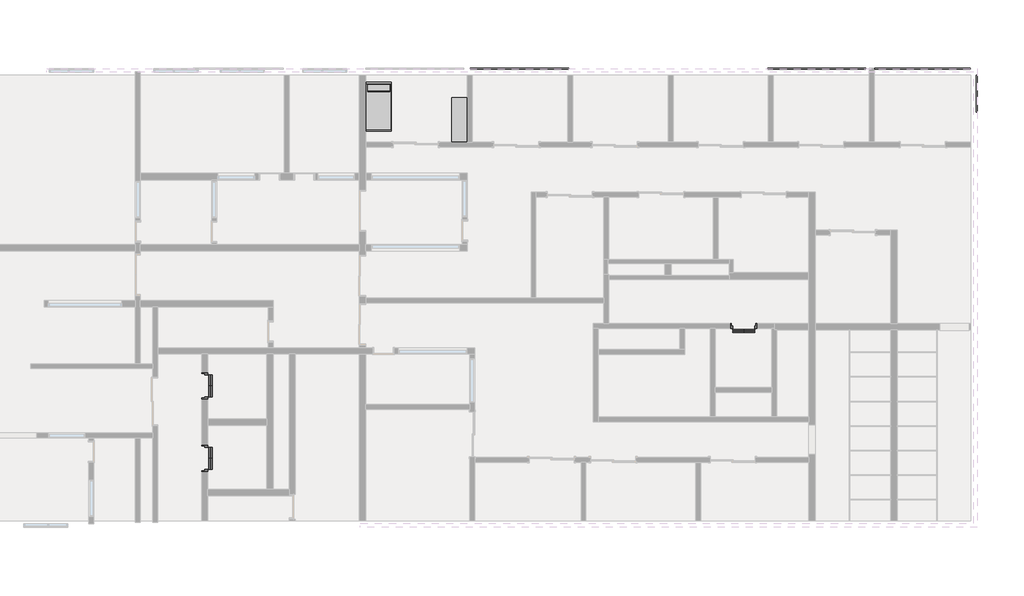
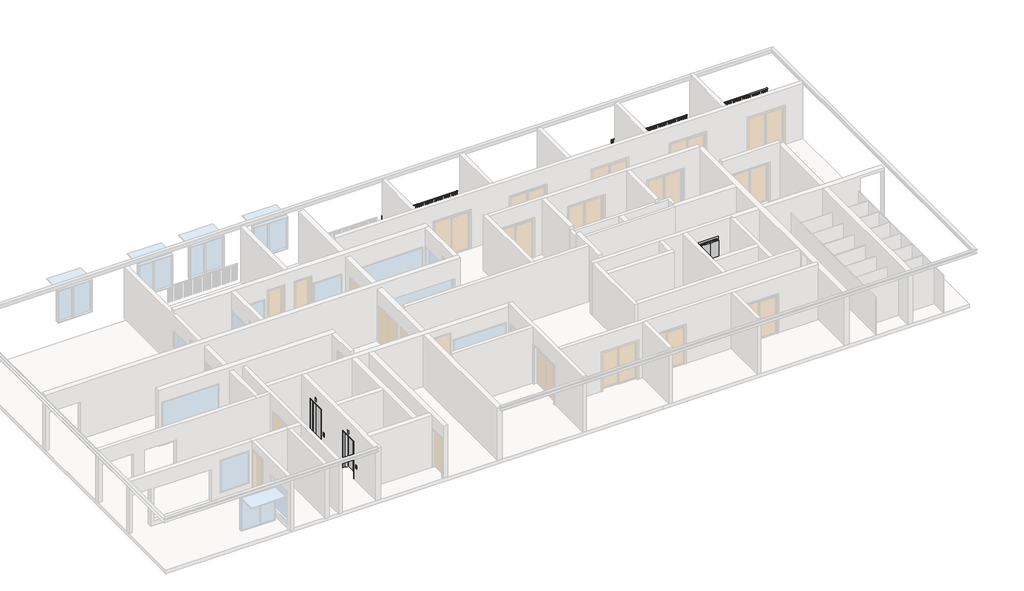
# One storey, part 5 of 5: 4 railings, 3 proxies, 2 furniture elements.
"""IFC4 building model written with IfcOpenShell, lengths in millimetres."""

from ifc_helpers import new_model, si_unit, point, frame, frame_2d, origin, place, context, project, spatial, polyline, circle_curve, trimmed, segment, composite_curve, outline, extrude, transform, mapped, element, save
from components import lift_single_entry_gen_type1_208d8e88, lift_single_entry_gen_type1_efb82ba8, bed_shaker_1040_x_1981mm_twin_31f1bf66, desk_fur_ff340581

model = new_model("IFC4")

# Units and contexts
model_context = context("Model", 3, world=origin())
ifc_project = project(units=[si_unit("LENGTHUNIT", "METRE", prefix="MILLI")], contexts=[model_context])

# Site, building, storey
site = spatial("IfcSite", under=ifc_project)
building = spatial("IfcBuilding", under=site)
storey = spatial("IfcBuildingStorey", under=building, Name="3階", Elevation=36100.0)

# Proxies
placement = place(None, origin())
lift_single_entry_gen_type1_shape = lift_single_entry_gen_type1_208d8e88(model_context)
element("IfcBuildingElementProxy", 1, Name="Lift_Single Entry_GEN : Type1", ObjectType="Lift_Single Entry_GEN : Type1", at=placement, inside=storey, context=model_context, shape_type="MappedRepresentation", body=[
    mapped(lift_single_entry_gen_type1_shape, transform((13819.6062665, 5591.0857154, 36100.0), x_axis=(0.0, 1.0, 0.0), y_axis=(-1.0, 0.0, 0.0), z_axis=(0.0, 0.0, 1.0))),
])
element("IfcBuildingElementProxy", 2, Name="Lift_Single Entry_GEN : Type1", ObjectType="Lift_Single Entry_GEN : Type1", at=placement, inside=storey, context=model_context, shape_type="MappedRepresentation", body=[
    mapped(lift_single_entry_gen_type1_shape, transform((13819.6062665, 2641.0857154, 36100.0), x_axis=(0.0, 1.0, 0.0), y_axis=(-1.0, 0.0, 0.0), z_axis=(0.0, 0.0, 1.0))),
])
lift_single_entry_gen_type1_2_shape = lift_single_entry_gen_type1_efb82ba8(model_context)
element("IfcBuildingElementProxy", 3, Name="Lift_Single Entry_GEN : Type1", ObjectType="Lift_Single Entry_GEN : Type1", at=placement, inside=storey, context=model_context, shape_type="MappedRepresentation", body=[
    mapped(lift_single_entry_gen_type1_2_shape, transform((35528.244232, 8230.005792, 36100.0), x_axis=(1.0, 0.0, 0.0), y_axis=(0.0, 1.0, 0.0), z_axis=(0.0, 0.0, 1.0))),
])

# Furniture
bed_shaker_1040_x_1981mm_twin_shape = bed_shaker_1040_x_1981mm_twin_31f1bf66(model_context)
element("IfcFurniture", 4, ObjectType="Bed-Shaker : 1040 x 1981mm - Twin", at=placement, inside=storey, context=model_context, shape_type="MappedRepresentation", body=[
    mapped(bed_shaker_1040_x_1981mm_twin_shape, transform((20904.3562665, 18140.0, 36100.0), x_axis=(1.0, 0.0, 0.0), y_axis=(0.0, 1.0, 0.0), z_axis=(0.0, 0.0, 1.0))),
])
desk_fur_shape = desk_fur_ff340581(model_context)
element("IfcFurniture", 5, ObjectType="Desk_FUR : 1800 x 600  mm 2", at=placement, inside=storey, context=model_context, shape_type="MappedRepresentation", body=[
    mapped(desk_fur_shape, transform((24569.4034243, 15853.7680774, 36100.0), x_axis=(0.0, 1.0, 0.0), y_axis=(-1.0, 0.0, 0.0), z_axis=(0.0, 0.0, 1.0))),
])

# Railings
element("IfcRailing", 6, ObjectType="900mm", at=placement, inside=storey, context=model_context, shape_type="SweptSolid", body=[
    extrude(outline(composite_curve([segment(trimmed(circle_curve(frame_2d((18700.0, 36980.0)), 20.0), [point((18720.0, 36980.0))], [point((18680.0, 36980.0))], False, "CARTESIAN"), True, "CONTINUOUS"), segment(trimmed(circle_curve(frame_2d((18700.0, 36980.0)), 20.0), [point((18680.0, 36980.0))], [point((18720.0, 36980.0))], False, "CARTESIAN"), True, "CONTINUOUS")], self_intersect=False)), frame((24623.4034243, 0.0, 0.0), z_axis=(1.0, 0.0, 0.0), x_axis=(0.0, 1.0, 0.0)), (0.0, 0.0, 1.0), 3988.7971578),
    extrude(outline(polyline([(24717.200582, 18695.0), (24707.200582, 18695.0), (24707.200582, 18705.0), (24717.200582, 18705.0), (24717.200582, 18695.0)])), frame((0.0, 0.0, 36100.0), z_axis=(0.0, 0.0, 1.0), x_axis=(1.0, 0.0, 0.0)), (0.0, 0.0, 1.0), 860.0),
    extrude(outline(polyline([(24817.200582, 18695.0), (24807.200582, 18695.0), (24807.200582, 18705.0), (24817.200582, 18705.0), (24817.200582, 18695.0)])), frame((0.0, 0.0, 36100.0), z_axis=(0.0, 0.0, 1.0), x_axis=(1.0, 0.0, 0.0)), (0.0, 0.0, 1.0), 860.0),
    extrude(outline(polyline([(24917.200582, 18695.0), (24907.200582, 18695.0), (24907.200582, 18705.0), (24917.200582, 18705.0), (24917.200582, 18695.0)])), frame((0.0, 0.0, 36100.0), z_axis=(0.0, 0.0, 1.0), x_axis=(1.0, 0.0, 0.0)), (0.0, 0.0, 1.0), 860.0),
    extrude(outline(polyline([(25017.200582, 18695.0), (25007.200582, 18695.0), (25007.200582, 18705.0), (25017.200582, 18705.0), (25017.200582, 18695.0)])), frame((0.0, 0.0, 36100.0), z_axis=(0.0, 0.0, 1.0), x_axis=(1.0, 0.0, 0.0)), (0.0, 0.0, 1.0), 860.0),
    extrude(outline(polyline([(25117.200582, 18695.0), (25107.200582, 18695.0), (25107.200582, 18705.0), (25117.200582, 18705.0), (25117.200582, 18695.0)])), frame((0.0, 0.0, 36100.0), z_axis=(0.0, 0.0, 1.0), x_axis=(1.0, 0.0, 0.0)), (0.0, 0.0, 1.0), 860.0),
    extrude(outline(polyline([(25217.200582, 18695.0), (25207.200582, 18695.0), (25207.200582, 18705.0), (25217.200582, 18705.0), (25217.200582, 18695.0)])), frame((0.0, 0.0, 36100.0), z_axis=(0.0, 0.0, 1.0), x_axis=(1.0, 0.0, 0.0)), (0.0, 0.0, 1.0), 860.0),
    extrude(outline(polyline([(25317.200582, 18695.0), (25307.200582, 18695.0), (25307.200582, 18705.0), (25317.200582, 18705.0), (25317.200582, 18695.0)])), frame((0.0, 0.0, 36100.0), z_axis=(0.0, 0.0, 1.0), x_axis=(1.0, 0.0, 0.0)), (0.0, 0.0, 1.0), 860.0),
    extrude(outline(polyline([(25417.200582, 18695.0), (25407.200582, 18695.0), (25407.200582, 18705.0), (25417.200582, 18705.0), (25417.200582, 18695.0)])), frame((0.0, 0.0, 36100.0), z_axis=(0.0, 0.0, 1.0), x_axis=(1.0, 0.0, 0.0)), (0.0, 0.0, 1.0), 860.0),
    extrude(outline(polyline([(25517.200582, 18695.0), (25507.200582, 18695.0), (25507.200582, 18705.0), (25517.200582, 18705.0), (25517.200582, 18695.0)])), frame((0.0, 0.0, 36100.0), z_axis=(0.0, 0.0, 1.0), x_axis=(1.0, 0.0, 0.0)), (0.0, 0.0, 1.0), 860.0),
    extrude(outline(polyline([(25617.200582, 18695.0), (25607.200582, 18695.0), (25607.200582, 18705.0), (25617.200582, 18705.0), (25617.200582, 18695.0)])), frame((0.0, 0.0, 36100.0), z_axis=(0.0, 0.0, 1.0), x_axis=(1.0, 0.0, 0.0)), (0.0, 0.0, 1.0), 860.0),
    extrude(outline(polyline([(25717.200582, 18695.0), (25707.200582, 18695.0), (25707.200582, 18705.0), (25717.200582, 18705.0), (25717.200582, 18695.0)])), frame((0.0, 0.0, 36100.0), z_axis=(0.0, 0.0, 1.0), x_axis=(1.0, 0.0, 0.0)), (0.0, 0.0, 1.0), 860.0),
    extrude(outline(polyline([(25817.200582, 18695.0), (25807.200582, 18695.0), (25807.200582, 18705.0), (25817.200582, 18705.0), (25817.200582, 18695.0)])), frame((0.0, 0.0, 36100.0), z_axis=(0.0, 0.0, 1.0), x_axis=(1.0, 0.0, 0.0)), (0.0, 0.0, 1.0), 860.0),
    extrude(outline(polyline([(25917.200582, 18695.0), (25907.200582, 18695.0), (25907.200582, 18705.0), (25917.200582, 18705.0), (25917.200582, 18695.0)])), frame((0.0, 0.0, 36100.0), z_axis=(0.0, 0.0, 1.0), x_axis=(1.0, 0.0, 0.0)), (0.0, 0.0, 1.0), 860.0),
    extrude(outline(polyline([(26017.200582, 18695.0), (26007.200582, 18695.0), (26007.200582, 18705.0), (26017.200582, 18705.0), (26017.200582, 18695.0)])), frame((0.0, 0.0, 36100.0), z_axis=(0.0, 0.0, 1.0), x_axis=(1.0, 0.0, 0.0)), (0.0, 0.0, 1.0), 860.0),
    extrude(outline(polyline([(26117.200582, 18695.0), (26107.200582, 18695.0), (26107.200582, 18705.0), (26117.200582, 18705.0), (26117.200582, 18695.0)])), frame((0.0, 0.0, 36100.0), z_axis=(0.0, 0.0, 1.0), x_axis=(1.0, 0.0, 0.0)), (0.0, 0.0, 1.0), 860.0),
    extrude(outline(polyline([(26217.200582, 18695.0), (26207.200582, 18695.0), (26207.200582, 18705.0), (26217.200582, 18705.0), (26217.200582, 18695.0)])), frame((0.0, 0.0, 36100.0), z_axis=(0.0, 0.0, 1.0), x_axis=(1.0, 0.0, 0.0)), (0.0, 0.0, 1.0), 860.0),
    extrude(outline(polyline([(26317.200582, 18695.0), (26307.200582, 18695.0), (26307.200582, 18705.0), (26317.200582, 18705.0), (26317.200582, 18695.0)])), frame((0.0, 0.0, 36100.0), z_axis=(0.0, 0.0, 1.0), x_axis=(1.0, 0.0, 0.0)), (0.0, 0.0, 1.0), 860.0),
    extrude(outline(polyline([(26417.200582, 18695.0), (26407.200582, 18695.0), (26407.200582, 18705.0), (26417.200582, 18705.0), (26417.200582, 18695.0)])), frame((0.0, 0.0, 36100.0), z_axis=(0.0, 0.0, 1.0), x_axis=(1.0, 0.0, 0.0)), (0.0, 0.0, 1.0), 860.0),
    extrude(outline(polyline([(26517.200582, 18695.0), (26507.200582, 18695.0), (26507.200582, 18705.0), (26517.200582, 18705.0), (26517.200582, 18695.0)])), frame((0.0, 0.0, 36100.0), z_axis=(0.0, 0.0, 1.0), x_axis=(1.0, 0.0, 0.0)), (0.0, 0.0, 1.0), 860.0),
    extrude(outline(polyline([(26617.200582, 18695.0), (26607.200582, 18695.0), (26607.200582, 18705.0), (26617.200582, 18705.0), (26617.200582, 18695.0)])), frame((0.0, 0.0, 36100.0), z_axis=(0.0, 0.0, 1.0), x_axis=(1.0, 0.0, 0.0)), (0.0, 0.0, 1.0), 860.0),
    extrude(outline(polyline([(26717.200582, 18695.0), (26707.200582, 18695.0), (26707.200582, 18705.0), (26717.200582, 18705.0), (26717.200582, 18695.0)])), frame((0.0, 0.0, 36100.0), z_axis=(0.0, 0.0, 1.0), x_axis=(1.0, 0.0, 0.0)), (0.0, 0.0, 1.0), 860.0),
    extrude(outline(polyline([(26817.200582, 18695.0), (26807.200582, 18695.0), (26807.200582, 18705.0), (26817.200582, 18705.0), (26817.200582, 18695.0)])), frame((0.0, 0.0, 36100.0), z_axis=(0.0, 0.0, 1.0), x_axis=(1.0, 0.0, 0.0)), (0.0, 0.0, 1.0), 860.0),
    extrude(outline(polyline([(26917.200582, 18695.0), (26907.200582, 18695.0), (26907.200582, 18705.0), (26917.200582, 18705.0), (26917.200582, 18695.0)])), frame((0.0, 0.0, 36100.0), z_axis=(0.0, 0.0, 1.0), x_axis=(1.0, 0.0, 0.0)), (0.0, 0.0, 1.0), 860.0),
    extrude(outline(polyline([(27017.200582, 18695.0), (27007.200582, 18695.0), (27007.200582, 18705.0), (27017.200582, 18705.0), (27017.200582, 18695.0)])), frame((0.0, 0.0, 36100.0), z_axis=(0.0, 0.0, 1.0), x_axis=(1.0, 0.0, 0.0)), (0.0, 0.0, 1.0), 860.0),
    extrude(outline(polyline([(27117.200582, 18695.0), (27107.200582, 18695.0), (27107.200582, 18705.0), (27117.200582, 18705.0), (27117.200582, 18695.0)])), frame((0.0, 0.0, 36100.0), z_axis=(0.0, 0.0, 1.0), x_axis=(1.0, 0.0, 0.0)), (0.0, 0.0, 1.0), 860.0),
    extrude(outline(polyline([(27217.200582, 18695.0), (27207.200582, 18695.0), (27207.200582, 18705.0), (27217.200582, 18705.0), (27217.200582, 18695.0)])), frame((0.0, 0.0, 36100.0), z_axis=(0.0, 0.0, 1.0), x_axis=(1.0, 0.0, 0.0)), (0.0, 0.0, 1.0), 860.0),
    extrude(outline(polyline([(27317.200582, 18695.0), (27307.200582, 18695.0), (27307.200582, 18705.0), (27317.200582, 18705.0), (27317.200582, 18695.0)])), frame((0.0, 0.0, 36100.0), z_axis=(0.0, 0.0, 1.0), x_axis=(1.0, 0.0, 0.0)), (0.0, 0.0, 1.0), 860.0),
    extrude(outline(polyline([(27417.200582, 18695.0), (27407.200582, 18695.0), (27407.200582, 18705.0), (27417.200582, 18705.0), (27417.200582, 18695.0)])), frame((0.0, 0.0, 36100.0), z_axis=(0.0, 0.0, 1.0), x_axis=(1.0, 0.0, 0.0)), (0.0, 0.0, 1.0), 860.0),
    extrude(outline(polyline([(27517.200582, 18695.0), (27507.200582, 18695.0), (27507.200582, 18705.0), (27517.200582, 18705.0), (27517.200582, 18695.0)])), frame((0.0, 0.0, 36100.0), z_axis=(0.0, 0.0, 1.0), x_axis=(1.0, 0.0, 0.0)), (0.0, 0.0, 1.0), 860.0),
    extrude(outline(polyline([(27617.200582, 18695.0), (27607.200582, 18695.0), (27607.200582, 18705.0), (27617.200582, 18705.0), (27617.200582, 18695.0)])), frame((0.0, 0.0, 36100.0), z_axis=(0.0, 0.0, 1.0), x_axis=(1.0, 0.0, 0.0)), (0.0, 0.0, 1.0), 860.0),
    extrude(outline(polyline([(27717.200582, 18695.0), (27707.200582, 18695.0), (27707.200582, 18705.0), (27717.200582, 18705.0), (27717.200582, 18695.0)])), frame((0.0, 0.0, 36100.0), z_axis=(0.0, 0.0, 1.0), x_axis=(1.0, 0.0, 0.0)), (0.0, 0.0, 1.0), 860.0),
    extrude(outline(polyline([(27817.200582, 18695.0), (27807.200582, 18695.0), (27807.200582, 18705.0), (27817.200582, 18705.0), (27817.200582, 18695.0)])), frame((0.0, 0.0, 36100.0), z_axis=(0.0, 0.0, 1.0), x_axis=(1.0, 0.0, 0.0)), (0.0, 0.0, 1.0), 860.0),
    extrude(outline(polyline([(27917.200582, 18695.0), (27907.200582, 18695.0), (27907.200582, 18705.0), (27917.200582, 18705.0), (27917.200582, 18695.0)])), frame((0.0, 0.0, 36100.0), z_axis=(0.0, 0.0, 1.0), x_axis=(1.0, 0.0, 0.0)), (0.0, 0.0, 1.0), 860.0),
    extrude(outline(polyline([(28017.200582, 18695.0), (28007.200582, 18695.0), (28007.200582, 18705.0), (28017.200582, 18705.0), (28017.200582, 18695.0)])), frame((0.0, 0.0, 36100.0), z_axis=(0.0, 0.0, 1.0), x_axis=(1.0, 0.0, 0.0)), (0.0, 0.0, 1.0), 860.0),
    extrude(outline(polyline([(28117.200582, 18695.0), (28107.200582, 18695.0), (28107.200582, 18705.0), (28117.200582, 18705.0), (28117.200582, 18695.0)])), frame((0.0, 0.0, 36100.0), z_axis=(0.0, 0.0, 1.0), x_axis=(1.0, 0.0, 0.0)), (0.0, 0.0, 1.0), 860.0),
    extrude(outline(polyline([(28217.200582, 18695.0), (28207.200582, 18695.0), (28207.200582, 18705.0), (28217.200582, 18705.0), (28217.200582, 18695.0)])), frame((0.0, 0.0, 36100.0), z_axis=(0.0, 0.0, 1.0), x_axis=(1.0, 0.0, 0.0)), (0.0, 0.0, 1.0), 860.0),
    extrude(outline(polyline([(28317.200582, 18695.0), (28307.200582, 18695.0), (28307.200582, 18705.0), (28317.200582, 18705.0), (28317.200582, 18695.0)])), frame((0.0, 0.0, 36100.0), z_axis=(0.0, 0.0, 1.0), x_axis=(1.0, 0.0, 0.0)), (0.0, 0.0, 1.0), 860.0),
    extrude(outline(polyline([(28417.200582, 18695.0), (28407.200582, 18695.0), (28407.200582, 18705.0), (28417.200582, 18705.0), (28417.200582, 18695.0)])), frame((0.0, 0.0, 36100.0), z_axis=(0.0, 0.0, 1.0), x_axis=(1.0, 0.0, 0.0)), (0.0, 0.0, 1.0), 860.0),
    extrude(outline(polyline([(28517.200582, 18695.0), (28507.200582, 18695.0), (28507.200582, 18705.0), (28517.200582, 18705.0), (28517.200582, 18695.0)])), frame((0.0, 0.0, 36100.0), z_axis=(0.0, 0.0, 1.0), x_axis=(1.0, 0.0, 0.0)), (0.0, 0.0, 1.0), 860.0),
    extrude(outline(polyline([(24638.4034243, 18695.0), (24628.4034243, 18695.0), (24628.4034243, 18705.0), (24638.4034243, 18705.0), (24638.4034243, 18695.0)])), frame((0.0, 0.0, 36100.0), z_axis=(0.0, 0.0, 1.0), x_axis=(1.0, 0.0, 0.0)), (0.0, 0.0, 1.0), 860.0),
    extrude(outline(polyline([(28607.200582, 18695.0), (28597.200582, 18695.0), (28597.200582, 18705.0), (28607.200582, 18705.0), (28607.200582, 18695.0)])), frame((0.0, 0.0, 36100.0), z_axis=(0.0, 0.0, 1.0), x_axis=(1.0, 0.0, 0.0)), (0.0, 0.0, 1.0), 860.0),
])
element("IfcRailing", 7, ObjectType="900mm", at=placement, inside=storey, context=model_context, shape_type="SweptSolid", body=[
    extrude(outline(composite_curve([segment(trimmed(circle_curve(frame_2d((18700.0, 36980.0)), 20.0), [point((18680.0, 36980.0))], [point((18720.0, 36980.0))], False, "CARTESIAN"), True, "CONTINUOUS"), segment(trimmed(circle_curve(frame_2d((18700.0, 36980.0)), 20.0), [point((18720.0, 36980.0))], [point((18680.0, 36980.0))], False, "CARTESIAN"), True, "CONTINUOUS")], self_intersect=False)), frame((36717.5608733, 0.0, 0.0), z_axis=(1.0, 0.0, 0.0), x_axis=(0.0, 1.0, 0.0)), (0.0, 0.0, 1.0), 3988.7971578),
    extrude(outline(polyline([(40612.5608733, 18695.0), (40612.5608733, 18705.0), (40622.5608733, 18705.0), (40622.5608733, 18695.0), (40612.5608733, 18695.0)])), frame((0.0, 0.0, 36100.0), z_axis=(0.0, 0.0, 1.0), x_axis=(1.0, 0.0, 0.0)), (0.0, 0.0, 1.0), 860.0),
    extrude(outline(polyline([(40512.5608733, 18695.0), (40512.5608733, 18705.0), (40522.5608733, 18705.0), (40522.5608733, 18695.0), (40512.5608733, 18695.0)])), frame((0.0, 0.0, 36100.0), z_axis=(0.0, 0.0, 1.0), x_axis=(1.0, 0.0, 0.0)), (0.0, 0.0, 1.0), 860.0),
    extrude(outline(polyline([(40412.5608733, 18695.0), (40412.5608733, 18705.0), (40422.5608733, 18705.0), (40422.5608733, 18695.0), (40412.5608733, 18695.0)])), frame((0.0, 0.0, 36100.0), z_axis=(0.0, 0.0, 1.0), x_axis=(1.0, 0.0, 0.0)), (0.0, 0.0, 1.0), 860.0),
    extrude(outline(polyline([(40312.5608733, 18695.0), (40312.5608733, 18705.0), (40322.5608733, 18705.0), (40322.5608733, 18695.0), (40312.5608733, 18695.0)])), frame((0.0, 0.0, 36100.0), z_axis=(0.0, 0.0, 1.0), x_axis=(1.0, 0.0, 0.0)), (0.0, 0.0, 1.0), 860.0),
    extrude(outline(polyline([(40212.5608733, 18695.0), (40212.5608733, 18705.0), (40222.5608733, 18705.0), (40222.5608733, 18695.0), (40212.5608733, 18695.0)])), frame((0.0, 0.0, 36100.0), z_axis=(0.0, 0.0, 1.0), x_axis=(1.0, 0.0, 0.0)), (0.0, 0.0, 1.0), 860.0),
    extrude(outline(polyline([(40112.5608733, 18695.0), (40112.5608733, 18705.0), (40122.5608733, 18705.0), (40122.5608733, 18695.0), (40112.5608733, 18695.0)])), frame((0.0, 0.0, 36100.0), z_axis=(0.0, 0.0, 1.0), x_axis=(1.0, 0.0, 0.0)), (0.0, 0.0, 1.0), 860.0),
    extrude(outline(polyline([(40012.5608733, 18695.0), (40012.5608733, 18705.0), (40022.5608733, 18705.0), (40022.5608733, 18695.0), (40012.5608733, 18695.0)])), frame((0.0, 0.0, 36100.0), z_axis=(0.0, 0.0, 1.0), x_axis=(1.0, 0.0, 0.0)), (0.0, 0.0, 1.0), 860.0),
    extrude(outline(polyline([(39912.5608733, 18695.0), (39912.5608733, 18705.0), (39922.5608733, 18705.0), (39922.5608733, 18695.0), (39912.5608733, 18695.0)])), frame((0.0, 0.0, 36100.0), z_axis=(0.0, 0.0, 1.0), x_axis=(1.0, 0.0, 0.0)), (0.0, 0.0, 1.0), 860.0),
    extrude(outline(polyline([(39812.5608733, 18695.0), (39812.5608733, 18705.0), (39822.5608733, 18705.0), (39822.5608733, 18695.0), (39812.5608733, 18695.0)])), frame((0.0, 0.0, 36100.0), z_axis=(0.0, 0.0, 1.0), x_axis=(1.0, 0.0, 0.0)), (0.0, 0.0, 1.0), 860.0),
    extrude(outline(polyline([(39712.5608733, 18695.0), (39712.5608733, 18705.0), (39722.5608733, 18705.0), (39722.5608733, 18695.0), (39712.5608733, 18695.0)])), frame((0.0, 0.0, 36100.0), z_axis=(0.0, 0.0, 1.0), x_axis=(1.0, 0.0, 0.0)), (0.0, 0.0, 1.0), 860.0),
    extrude(outline(polyline([(39612.5608733, 18695.0), (39612.5608733, 18705.0), (39622.5608733, 18705.0), (39622.5608733, 18695.0), (39612.5608733, 18695.0)])), frame((0.0, 0.0, 36100.0), z_axis=(0.0, 0.0, 1.0), x_axis=(1.0, 0.0, 0.0)), (0.0, 0.0, 1.0), 860.0),
    extrude(outline(polyline([(39512.5608733, 18695.0), (39512.5608733, 18705.0), (39522.5608733, 18705.0), (39522.5608733, 18695.0), (39512.5608733, 18695.0)])), frame((0.0, 0.0, 36100.0), z_axis=(0.0, 0.0, 1.0), x_axis=(1.0, 0.0, 0.0)), (0.0, 0.0, 1.0), 860.0),
    extrude(outline(polyline([(39412.5608733, 18695.0), (39412.5608733, 18705.0), (39422.5608733, 18705.0), (39422.5608733, 18695.0), (39412.5608733, 18695.0)])), frame((0.0, 0.0, 36100.0), z_axis=(0.0, 0.0, 1.0), x_axis=(1.0, 0.0, 0.0)), (0.0, 0.0, 1.0), 860.0),
    extrude(outline(polyline([(39312.5608733, 18695.0), (39312.5608733, 18705.0), (39322.5608733, 18705.0), (39322.5608733, 18695.0), (39312.5608733, 18695.0)])), frame((0.0, 0.0, 36100.0), z_axis=(0.0, 0.0, 1.0), x_axis=(1.0, 0.0, 0.0)), (0.0, 0.0, 1.0), 860.0),
    extrude(outline(polyline([(39212.5608733, 18695.0), (39212.5608733, 18705.0), (39222.5608733, 18705.0), (39222.5608733, 18695.0), (39212.5608733, 18695.0)])), frame((0.0, 0.0, 36100.0), z_axis=(0.0, 0.0, 1.0), x_axis=(1.0, 0.0, 0.0)), (0.0, 0.0, 1.0), 860.0),
    extrude(outline(polyline([(39112.5608733, 18695.0), (39112.5608733, 18705.0), (39122.5608733, 18705.0), (39122.5608733, 18695.0), (39112.5608733, 18695.0)])), frame((0.0, 0.0, 36100.0), z_axis=(0.0, 0.0, 1.0), x_axis=(1.0, 0.0, 0.0)), (0.0, 0.0, 1.0), 860.0),
    extrude(outline(polyline([(39012.5608733, 18695.0), (39012.5608733, 18705.0), (39022.5608733, 18705.0), (39022.5608733, 18695.0), (39012.5608733, 18695.0)])), frame((0.0, 0.0, 36100.0), z_axis=(0.0, 0.0, 1.0), x_axis=(1.0, 0.0, 0.0)), (0.0, 0.0, 1.0), 860.0),
    extrude(outline(polyline([(38912.5608733, 18695.0), (38912.5608733, 18705.0), (38922.5608733, 18705.0), (38922.5608733, 18695.0), (38912.5608733, 18695.0)])), frame((0.0, 0.0, 36100.0), z_axis=(0.0, 0.0, 1.0), x_axis=(1.0, 0.0, 0.0)), (0.0, 0.0, 1.0), 860.0),
    extrude(outline(polyline([(38812.5608733, 18695.0), (38812.5608733, 18705.0), (38822.5608733, 18705.0), (38822.5608733, 18695.0), (38812.5608733, 18695.0)])), frame((0.0, 0.0, 36100.0), z_axis=(0.0, 0.0, 1.0), x_axis=(1.0, 0.0, 0.0)), (0.0, 0.0, 1.0), 860.0),
    extrude(outline(polyline([(38712.5608733, 18695.0), (38712.5608733, 18705.0), (38722.5608733, 18705.0), (38722.5608733, 18695.0), (38712.5608733, 18695.0)])), frame((0.0, 0.0, 36100.0), z_axis=(0.0, 0.0, 1.0), x_axis=(1.0, 0.0, 0.0)), (0.0, 0.0, 1.0), 860.0),
    extrude(outline(polyline([(38612.5608733, 18695.0), (38612.5608733, 18705.0), (38622.5608733, 18705.0), (38622.5608733, 18695.0), (38612.5608733, 18695.0)])), frame((0.0, 0.0, 36100.0), z_axis=(0.0, 0.0, 1.0), x_axis=(1.0, 0.0, 0.0)), (0.0, 0.0, 1.0), 860.0),
    extrude(outline(polyline([(38512.5608733, 18695.0), (38512.5608733, 18705.0), (38522.5608733, 18705.0), (38522.5608733, 18695.0), (38512.5608733, 18695.0)])), frame((0.0, 0.0, 36100.0), z_axis=(0.0, 0.0, 1.0), x_axis=(1.0, 0.0, 0.0)), (0.0, 0.0, 1.0), 860.0),
    extrude(outline(polyline([(38412.5608733, 18695.0), (38412.5608733, 18705.0), (38422.5608733, 18705.0), (38422.5608733, 18695.0), (38412.5608733, 18695.0)])), frame((0.0, 0.0, 36100.0), z_axis=(0.0, 0.0, 1.0), x_axis=(1.0, 0.0, 0.0)), (0.0, 0.0, 1.0), 860.0),
    extrude(outline(polyline([(38312.5608733, 18695.0), (38312.5608733, 18705.0), (38322.5608733, 18705.0), (38322.5608733, 18695.0), (38312.5608733, 18695.0)])), frame((0.0, 0.0, 36100.0), z_axis=(0.0, 0.0, 1.0), x_axis=(1.0, 0.0, 0.0)), (0.0, 0.0, 1.0), 860.0),
    extrude(outline(polyline([(38212.5608733, 18695.0), (38212.5608733, 18705.0), (38222.5608733, 18705.0), (38222.5608733, 18695.0), (38212.5608733, 18695.0)])), frame((0.0, 0.0, 36100.0), z_axis=(0.0, 0.0, 1.0), x_axis=(1.0, 0.0, 0.0)), (0.0, 0.0, 1.0), 860.0),
    extrude(outline(polyline([(38112.5608733, 18695.0), (38112.5608733, 18705.0), (38122.5608733, 18705.0), (38122.5608733, 18695.0), (38112.5608733, 18695.0)])), frame((0.0, 0.0, 36100.0), z_axis=(0.0, 0.0, 1.0), x_axis=(1.0, 0.0, 0.0)), (0.0, 0.0, 1.0), 860.0),
    extrude(outline(polyline([(38012.5608733, 18695.0), (38012.5608733, 18705.0), (38022.5608733, 18705.0), (38022.5608733, 18695.0), (38012.5608733, 18695.0)])), frame((0.0, 0.0, 36100.0), z_axis=(0.0, 0.0, 1.0), x_axis=(1.0, 0.0, 0.0)), (0.0, 0.0, 1.0), 860.0),
    extrude(outline(polyline([(37912.5608733, 18695.0), (37912.5608733, 18705.0), (37922.5608733, 18705.0), (37922.5608733, 18695.0), (37912.5608733, 18695.0)])), frame((0.0, 0.0, 36100.0), z_axis=(0.0, 0.0, 1.0), x_axis=(1.0, 0.0, 0.0)), (0.0, 0.0, 1.0), 860.0),
    extrude(outline(polyline([(37812.5608733, 18695.0), (37812.5608733, 18705.0), (37822.5608733, 18705.0), (37822.5608733, 18695.0), (37812.5608733, 18695.0)])), frame((0.0, 0.0, 36100.0), z_axis=(0.0, 0.0, 1.0), x_axis=(1.0, 0.0, 0.0)), (0.0, 0.0, 1.0), 860.0),
    extrude(outline(polyline([(37712.5608733, 18695.0), (37712.5608733, 18705.0), (37722.5608733, 18705.0), (37722.5608733, 18695.0), (37712.5608733, 18695.0)])), frame((0.0, 0.0, 36100.0), z_axis=(0.0, 0.0, 1.0), x_axis=(1.0, 0.0, 0.0)), (0.0, 0.0, 1.0), 860.0),
    extrude(outline(polyline([(37612.5608733, 18695.0), (37612.5608733, 18705.0), (37622.5608733, 18705.0), (37622.5608733, 18695.0), (37612.5608733, 18695.0)])), frame((0.0, 0.0, 36100.0), z_axis=(0.0, 0.0, 1.0), x_axis=(1.0, 0.0, 0.0)), (0.0, 0.0, 1.0), 860.0),
    extrude(outline(polyline([(37512.5608733, 18695.0), (37512.5608733, 18705.0), (37522.5608733, 18705.0), (37522.5608733, 18695.0), (37512.5608733, 18695.0)])), frame((0.0, 0.0, 36100.0), z_axis=(0.0, 0.0, 1.0), x_axis=(1.0, 0.0, 0.0)), (0.0, 0.0, 1.0), 860.0),
    extrude(outline(polyline([(37412.5608733, 18695.0), (37412.5608733, 18705.0), (37422.5608733, 18705.0), (37422.5608733, 18695.0), (37412.5608733, 18695.0)])), frame((0.0, 0.0, 36100.0), z_axis=(0.0, 0.0, 1.0), x_axis=(1.0, 0.0, 0.0)), (0.0, 0.0, 1.0), 860.0),
    extrude(outline(polyline([(37312.5608733, 18695.0), (37312.5608733, 18705.0), (37322.5608733, 18705.0), (37322.5608733, 18695.0), (37312.5608733, 18695.0)])), frame((0.0, 0.0, 36100.0), z_axis=(0.0, 0.0, 1.0), x_axis=(1.0, 0.0, 0.0)), (0.0, 0.0, 1.0), 860.0),
    extrude(outline(polyline([(37212.5608733, 18695.0), (37212.5608733, 18705.0), (37222.5608733, 18705.0), (37222.5608733, 18695.0), (37212.5608733, 18695.0)])), frame((0.0, 0.0, 36100.0), z_axis=(0.0, 0.0, 1.0), x_axis=(1.0, 0.0, 0.0)), (0.0, 0.0, 1.0), 860.0),
    extrude(outline(polyline([(37112.5608733, 18695.0), (37112.5608733, 18705.0), (37122.5608733, 18705.0), (37122.5608733, 18695.0), (37112.5608733, 18695.0)])), frame((0.0, 0.0, 36100.0), z_axis=(0.0, 0.0, 1.0), x_axis=(1.0, 0.0, 0.0)), (0.0, 0.0, 1.0), 860.0),
    extrude(outline(polyline([(37012.5608733, 18695.0), (37012.5608733, 18705.0), (37022.5608733, 18705.0), (37022.5608733, 18695.0), (37012.5608733, 18695.0)])), frame((0.0, 0.0, 36100.0), z_axis=(0.0, 0.0, 1.0), x_axis=(1.0, 0.0, 0.0)), (0.0, 0.0, 1.0), 860.0),
    extrude(outline(polyline([(36912.5608733, 18695.0), (36912.5608733, 18705.0), (36922.5608733, 18705.0), (36922.5608733, 18695.0), (36912.5608733, 18695.0)])), frame((0.0, 0.0, 36100.0), z_axis=(0.0, 0.0, 1.0), x_axis=(1.0, 0.0, 0.0)), (0.0, 0.0, 1.0), 860.0),
    extrude(outline(polyline([(36812.5608733, 18695.0), (36812.5608733, 18705.0), (36822.5608733, 18705.0), (36822.5608733, 18695.0), (36812.5608733, 18695.0)])), frame((0.0, 0.0, 36100.0), z_axis=(0.0, 0.0, 1.0), x_axis=(1.0, 0.0, 0.0)), (0.0, 0.0, 1.0), 860.0),
    extrude(outline(polyline([(40691.358031, 18695.0), (40691.358031, 18705.0), (40701.358031, 18705.0), (40701.358031, 18695.0), (40691.358031, 18695.0)])), frame((0.0, 0.0, 36100.0), z_axis=(0.0, 0.0, 1.0), x_axis=(1.0, 0.0, 0.0)), (0.0, 0.0, 1.0), 860.0),
    extrude(outline(polyline([(36722.5608733, 18695.0), (36722.5608733, 18705.0), (36732.5608733, 18705.0), (36732.5608733, 18695.0), (36722.5608733, 18695.0)])), frame((0.0, 0.0, 36100.0), z_axis=(0.0, 0.0, 1.0), x_axis=(1.0, 0.0, 0.0)), (0.0, 0.0, 1.0), 860.0),
])
element("IfcRailing", 8, ObjectType="900mm", at=placement, inside=storey, context=model_context, shape_type="SweptSolid", body=[
    extrude(outline(composite_curve([segment(trimmed(circle_curve(frame_2d((18700.0, 36980.0)), 20.0), [point((18720.0, 36980.0))], [point((18680.0, 36980.0))], False, "CARTESIAN"), True, "CONTINUOUS"), segment(trimmed(circle_curve(frame_2d((18700.0, 36980.0)), 20.0), [point((18680.0, 36980.0))], [point((18720.0, 36980.0))], False, "CARTESIAN"), True, "CONTINUOUS")], self_intersect=False)), frame((40953.358031, 0.0, 0.0), z_axis=(1.0, 0.0, 0.0), x_axis=(0.0, 1.0, 0.0)), (0.0, 0.0, 1.0), 3988.7971578),
    extrude(outline(polyline([(41047.1551888, 18695.0), (41037.1551888, 18695.0), (41037.1551888, 18705.0), (41047.1551888, 18705.0), (41047.1551888, 18695.0)])), frame((0.0, 0.0, 36100.0), z_axis=(0.0, 0.0, 1.0), x_axis=(1.0, 0.0, 0.0)), (0.0, 0.0, 1.0), 860.0),
    extrude(outline(polyline([(41147.1551888, 18695.0), (41137.1551888, 18695.0), (41137.1551888, 18705.0), (41147.1551888, 18705.0), (41147.1551888, 18695.0)])), frame((0.0, 0.0, 36100.0), z_axis=(0.0, 0.0, 1.0), x_axis=(1.0, 0.0, 0.0)), (0.0, 0.0, 1.0), 860.0),
    extrude(outline(polyline([(41247.1551888, 18695.0), (41237.1551888, 18695.0), (41237.1551888, 18705.0), (41247.1551888, 18705.0), (41247.1551888, 18695.0)])), frame((0.0, 0.0, 36100.0), z_axis=(0.0, 0.0, 1.0), x_axis=(1.0, 0.0, 0.0)), (0.0, 0.0, 1.0), 860.0),
    extrude(outline(polyline([(41347.1551888, 18695.0), (41337.1551888, 18695.0), (41337.1551888, 18705.0), (41347.1551888, 18705.0), (41347.1551888, 18695.0)])), frame((0.0, 0.0, 36100.0), z_axis=(0.0, 0.0, 1.0), x_axis=(1.0, 0.0, 0.0)), (0.0, 0.0, 1.0), 860.0),
    extrude(outline(polyline([(41447.1551888, 18695.0), (41437.1551888, 18695.0), (41437.1551888, 18705.0), (41447.1551888, 18705.0), (41447.1551888, 18695.0)])), frame((0.0, 0.0, 36100.0), z_axis=(0.0, 0.0, 1.0), x_axis=(1.0, 0.0, 0.0)), (0.0, 0.0, 1.0), 860.0),
    extrude(outline(polyline([(41547.1551888, 18695.0), (41537.1551888, 18695.0), (41537.1551888, 18705.0), (41547.1551888, 18705.0), (41547.1551888, 18695.0)])), frame((0.0, 0.0, 36100.0), z_axis=(0.0, 0.0, 1.0), x_axis=(1.0, 0.0, 0.0)), (0.0, 0.0, 1.0), 860.0),
    extrude(outline(polyline([(41647.1551888, 18695.0), (41637.1551888, 18695.0), (41637.1551888, 18705.0), (41647.1551888, 18705.0), (41647.1551888, 18695.0)])), frame((0.0, 0.0, 36100.0), z_axis=(0.0, 0.0, 1.0), x_axis=(1.0, 0.0, 0.0)), (0.0, 0.0, 1.0), 860.0),
    extrude(outline(polyline([(41747.1551888, 18695.0), (41737.1551888, 18695.0), (41737.1551888, 18705.0), (41747.1551888, 18705.0), (41747.1551888, 18695.0)])), frame((0.0, 0.0, 36100.0), z_axis=(0.0, 0.0, 1.0), x_axis=(1.0, 0.0, 0.0)), (0.0, 0.0, 1.0), 860.0),
    extrude(outline(polyline([(41847.1551888, 18695.0), (41837.1551888, 18695.0), (41837.1551888, 18705.0), (41847.1551888, 18705.0), (41847.1551888, 18695.0)])), frame((0.0, 0.0, 36100.0), z_axis=(0.0, 0.0, 1.0), x_axis=(1.0, 0.0, 0.0)), (0.0, 0.0, 1.0), 860.0),
    extrude(outline(polyline([(41947.1551888, 18695.0), (41937.1551888, 18695.0), (41937.1551888, 18705.0), (41947.1551888, 18705.0), (41947.1551888, 18695.0)])), frame((0.0, 0.0, 36100.0), z_axis=(0.0, 0.0, 1.0), x_axis=(1.0, 0.0, 0.0)), (0.0, 0.0, 1.0), 860.0),
    extrude(outline(polyline([(42047.1551888, 18695.0), (42037.1551888, 18695.0), (42037.1551888, 18705.0), (42047.1551888, 18705.0), (42047.1551888, 18695.0)])), frame((0.0, 0.0, 36100.0), z_axis=(0.0, 0.0, 1.0), x_axis=(1.0, 0.0, 0.0)), (0.0, 0.0, 1.0), 860.0),
    extrude(outline(polyline([(42147.1551888, 18695.0), (42137.1551888, 18695.0), (42137.1551888, 18705.0), (42147.1551888, 18705.0), (42147.1551888, 18695.0)])), frame((0.0, 0.0, 36100.0), z_axis=(0.0, 0.0, 1.0), x_axis=(1.0, 0.0, 0.0)), (0.0, 0.0, 1.0), 860.0),
    extrude(outline(polyline([(42247.1551888, 18695.0), (42237.1551888, 18695.0), (42237.1551888, 18705.0), (42247.1551888, 18705.0), (42247.1551888, 18695.0)])), frame((0.0, 0.0, 36100.0), z_axis=(0.0, 0.0, 1.0), x_axis=(1.0, 0.0, 0.0)), (0.0, 0.0, 1.0), 860.0),
    extrude(outline(polyline([(42347.1551888, 18695.0), (42337.1551888, 18695.0), (42337.1551888, 18705.0), (42347.1551888, 18705.0), (42347.1551888, 18695.0)])), frame((0.0, 0.0, 36100.0), z_axis=(0.0, 0.0, 1.0), x_axis=(1.0, 0.0, 0.0)), (0.0, 0.0, 1.0), 860.0),
    extrude(outline(polyline([(42447.1551888, 18695.0), (42437.1551888, 18695.0), (42437.1551888, 18705.0), (42447.1551888, 18705.0), (42447.1551888, 18695.0)])), frame((0.0, 0.0, 36100.0), z_axis=(0.0, 0.0, 1.0), x_axis=(1.0, 0.0, 0.0)), (0.0, 0.0, 1.0), 860.0),
    extrude(outline(polyline([(42547.1551888, 18695.0), (42537.1551888, 18695.0), (42537.1551888, 18705.0), (42547.1551888, 18705.0), (42547.1551888, 18695.0)])), frame((0.0, 0.0, 36100.0), z_axis=(0.0, 0.0, 1.0), x_axis=(1.0, 0.0, 0.0)), (0.0, 0.0, 1.0), 860.0),
    extrude(outline(polyline([(42647.1551888, 18695.0), (42637.1551888, 18695.0), (42637.1551888, 18705.0), (42647.1551888, 18705.0), (42647.1551888, 18695.0)])), frame((0.0, 0.0, 36100.0), z_axis=(0.0, 0.0, 1.0), x_axis=(1.0, 0.0, 0.0)), (0.0, 0.0, 1.0), 860.0),
    extrude(outline(polyline([(42747.1551888, 18695.0), (42737.1551888, 18695.0), (42737.1551888, 18705.0), (42747.1551888, 18705.0), (42747.1551888, 18695.0)])), frame((0.0, 0.0, 36100.0), z_axis=(0.0, 0.0, 1.0), x_axis=(1.0, 0.0, 0.0)), (0.0, 0.0, 1.0), 860.0),
    extrude(outline(polyline([(42847.1551888, 18695.0), (42837.1551888, 18695.0), (42837.1551888, 18705.0), (42847.1551888, 18705.0), (42847.1551888, 18695.0)])), frame((0.0, 0.0, 36100.0), z_axis=(0.0, 0.0, 1.0), x_axis=(1.0, 0.0, 0.0)), (0.0, 0.0, 1.0), 860.0),
    extrude(outline(polyline([(42947.1551888, 18695.0), (42937.1551888, 18695.0), (42937.1551888, 18705.0), (42947.1551888, 18705.0), (42947.1551888, 18695.0)])), frame((0.0, 0.0, 36100.0), z_axis=(0.0, 0.0, 1.0), x_axis=(1.0, 0.0, 0.0)), (0.0, 0.0, 1.0), 860.0),
    extrude(outline(polyline([(43047.1551888, 18695.0), (43037.1551888, 18695.0), (43037.1551888, 18705.0), (43047.1551888, 18705.0), (43047.1551888, 18695.0)])), frame((0.0, 0.0, 36100.0), z_axis=(0.0, 0.0, 1.0), x_axis=(1.0, 0.0, 0.0)), (0.0, 0.0, 1.0), 860.0),
    extrude(outline(polyline([(43147.1551888, 18695.0), (43137.1551888, 18695.0), (43137.1551888, 18705.0), (43147.1551888, 18705.0), (43147.1551888, 18695.0)])), frame((0.0, 0.0, 36100.0), z_axis=(0.0, 0.0, 1.0), x_axis=(1.0, 0.0, 0.0)), (0.0, 0.0, 1.0), 860.0),
    extrude(outline(polyline([(43247.1551888, 18695.0), (43237.1551888, 18695.0), (43237.1551888, 18705.0), (43247.1551888, 18705.0), (43247.1551888, 18695.0)])), frame((0.0, 0.0, 36100.0), z_axis=(0.0, 0.0, 1.0), x_axis=(1.0, 0.0, 0.0)), (0.0, 0.0, 1.0), 860.0),
    extrude(outline(polyline([(43347.1551888, 18695.0), (43337.1551888, 18695.0), (43337.1551888, 18705.0), (43347.1551888, 18705.0), (43347.1551888, 18695.0)])), frame((0.0, 0.0, 36100.0), z_axis=(0.0, 0.0, 1.0), x_axis=(1.0, 0.0, 0.0)), (0.0, 0.0, 1.0), 860.0),
    extrude(outline(polyline([(43447.1551888, 18695.0), (43437.1551888, 18695.0), (43437.1551888, 18705.0), (43447.1551888, 18705.0), (43447.1551888, 18695.0)])), frame((0.0, 0.0, 36100.0), z_axis=(0.0, 0.0, 1.0), x_axis=(1.0, 0.0, 0.0)), (0.0, 0.0, 1.0), 860.0),
    extrude(outline(polyline([(43547.1551888, 18695.0), (43537.1551888, 18695.0), (43537.1551888, 18705.0), (43547.1551888, 18705.0), (43547.1551888, 18695.0)])), frame((0.0, 0.0, 36100.0), z_axis=(0.0, 0.0, 1.0), x_axis=(1.0, 0.0, 0.0)), (0.0, 0.0, 1.0), 860.0),
    extrude(outline(polyline([(43647.1551888, 18695.0), (43637.1551888, 18695.0), (43637.1551888, 18705.0), (43647.1551888, 18705.0), (43647.1551888, 18695.0)])), frame((0.0, 0.0, 36100.0), z_axis=(0.0, 0.0, 1.0), x_axis=(1.0, 0.0, 0.0)), (0.0, 0.0, 1.0), 860.0),
    extrude(outline(polyline([(43747.1551888, 18695.0), (43737.1551888, 18695.0), (43737.1551888, 18705.0), (43747.1551888, 18705.0), (43747.1551888, 18695.0)])), frame((0.0, 0.0, 36100.0), z_axis=(0.0, 0.0, 1.0), x_axis=(1.0, 0.0, 0.0)), (0.0, 0.0, 1.0), 860.0),
    extrude(outline(polyline([(43847.1551888, 18695.0), (43837.1551888, 18695.0), (43837.1551888, 18705.0), (43847.1551888, 18705.0), (43847.1551888, 18695.0)])), frame((0.0, 0.0, 36100.0), z_axis=(0.0, 0.0, 1.0), x_axis=(1.0, 0.0, 0.0)), (0.0, 0.0, 1.0), 860.0),
    extrude(outline(polyline([(43947.1551888, 18695.0), (43937.1551888, 18695.0), (43937.1551888, 18705.0), (43947.1551888, 18705.0), (43947.1551888, 18695.0)])), frame((0.0, 0.0, 36100.0), z_axis=(0.0, 0.0, 1.0), x_axis=(1.0, 0.0, 0.0)), (0.0, 0.0, 1.0), 860.0),
    extrude(outline(polyline([(44047.1551888, 18695.0), (44037.1551888, 18695.0), (44037.1551888, 18705.0), (44047.1551888, 18705.0), (44047.1551888, 18695.0)])), frame((0.0, 0.0, 36100.0), z_axis=(0.0, 0.0, 1.0), x_axis=(1.0, 0.0, 0.0)), (0.0, 0.0, 1.0), 860.0),
    extrude(outline(polyline([(44147.1551888, 18695.0), (44137.1551888, 18695.0), (44137.1551888, 18705.0), (44147.1551888, 18705.0), (44147.1551888, 18695.0)])), frame((0.0, 0.0, 36100.0), z_axis=(0.0, 0.0, 1.0), x_axis=(1.0, 0.0, 0.0)), (0.0, 0.0, 1.0), 860.0),
    extrude(outline(polyline([(44247.1551888, 18695.0), (44237.1551888, 18695.0), (44237.1551888, 18705.0), (44247.1551888, 18705.0), (44247.1551888, 18695.0)])), frame((0.0, 0.0, 36100.0), z_axis=(0.0, 0.0, 1.0), x_axis=(1.0, 0.0, 0.0)), (0.0, 0.0, 1.0), 860.0),
    extrude(outline(polyline([(44347.1551888, 18695.0), (44337.1551888, 18695.0), (44337.1551888, 18705.0), (44347.1551888, 18705.0), (44347.1551888, 18695.0)])), frame((0.0, 0.0, 36100.0), z_axis=(0.0, 0.0, 1.0), x_axis=(1.0, 0.0, 0.0)), (0.0, 0.0, 1.0), 860.0),
    extrude(outline(polyline([(44447.1551888, 18695.0), (44437.1551888, 18695.0), (44437.1551888, 18705.0), (44447.1551888, 18705.0), (44447.1551888, 18695.0)])), frame((0.0, 0.0, 36100.0), z_axis=(0.0, 0.0, 1.0), x_axis=(1.0, 0.0, 0.0)), (0.0, 0.0, 1.0), 860.0),
    extrude(outline(polyline([(44547.1551888, 18695.0), (44537.1551888, 18695.0), (44537.1551888, 18705.0), (44547.1551888, 18705.0), (44547.1551888, 18695.0)])), frame((0.0, 0.0, 36100.0), z_axis=(0.0, 0.0, 1.0), x_axis=(1.0, 0.0, 0.0)), (0.0, 0.0, 1.0), 860.0),
    extrude(outline(polyline([(44647.1551888, 18695.0), (44637.1551888, 18695.0), (44637.1551888, 18705.0), (44647.1551888, 18705.0), (44647.1551888, 18695.0)])), frame((0.0, 0.0, 36100.0), z_axis=(0.0, 0.0, 1.0), x_axis=(1.0, 0.0, 0.0)), (0.0, 0.0, 1.0), 860.0),
    extrude(outline(polyline([(44747.1551888, 18695.0), (44737.1551888, 18695.0), (44737.1551888, 18705.0), (44747.1551888, 18705.0), (44747.1551888, 18695.0)])), frame((0.0, 0.0, 36100.0), z_axis=(0.0, 0.0, 1.0), x_axis=(1.0, 0.0, 0.0)), (0.0, 0.0, 1.0), 860.0),
    extrude(outline(polyline([(44847.1551888, 18695.0), (44837.1551888, 18695.0), (44837.1551888, 18705.0), (44847.1551888, 18705.0), (44847.1551888, 18695.0)])), frame((0.0, 0.0, 36100.0), z_axis=(0.0, 0.0, 1.0), x_axis=(1.0, 0.0, 0.0)), (0.0, 0.0, 1.0), 860.0),
    extrude(outline(polyline([(40968.358031, 18695.0), (40958.358031, 18695.0), (40958.358031, 18705.0), (40968.358031, 18705.0), (40968.358031, 18695.0)])), frame((0.0, 0.0, 36100.0), z_axis=(0.0, 0.0, 1.0), x_axis=(1.0, 0.0, 0.0)), (0.0, 0.0, 1.0), 860.0),
    extrude(outline(polyline([(44937.1551888, 18695.0), (44927.1551888, 18695.0), (44927.1551888, 18705.0), (44937.1551888, 18705.0), (44937.1551888, 18695.0)])), frame((0.0, 0.0, 36100.0), z_axis=(0.0, 0.0, 1.0), x_axis=(1.0, 0.0, 0.0)), (0.0, 0.0, 1.0), 860.0),
])
element("IfcRailing", 9, ObjectType="900mm", at=placement, inside=storey, context=model_context, shape_type="SweptSolid", body=[
    extrude(outline(composite_curve([segment(trimmed(circle_curve(frame_2d((36980.0, 45225.0)), 20.0), [point((36980.0, 45245.0))], [point((36980.0, 45205.0))], False, "CARTESIAN"), True, "CONTINUOUS"), segment(trimmed(circle_curve(frame_2d((36980.0, 45225.0)), 20.0), [point((36980.0, 45205.0))], [point((36980.0, 45245.0))], False, "CARTESIAN"), True, "CONTINUOUS")], self_intersect=False)), frame((0.0, 16929.8875971, 0.0), z_axis=(0.0, 1.0, 0.0), x_axis=(0.0, 0.0, 1.0)), (0.0, 0.0, 1.0), 1510.1124029),
    extrude(outline(polyline([(45230.0, 18424.8875971), (45220.0, 18424.8875971), (45220.0, 18434.8875971), (45230.0, 18434.8875971), (45230.0, 18424.8875971)])), frame((0.0, 0.0, 36100.0), z_axis=(0.0, 0.0, 1.0), x_axis=(1.0, 0.0, 0.0)), (0.0, 0.0, 1.0), 860.0),
    extrude(outline(polyline([(45230.0, 18324.8875971), (45220.0, 18324.8875971), (45220.0, 18334.8875971), (45230.0, 18334.8875971), (45230.0, 18324.8875971)])), frame((0.0, 0.0, 36100.0), z_axis=(0.0, 0.0, 1.0), x_axis=(1.0, 0.0, 0.0)), (0.0, 0.0, 1.0), 860.0),
    extrude(outline(polyline([(45230.0, 18224.8875971), (45220.0, 18224.8875971), (45220.0, 18234.8875971), (45230.0, 18234.8875971), (45230.0, 18224.8875971)])), frame((0.0, 0.0, 36100.0), z_axis=(0.0, 0.0, 1.0), x_axis=(1.0, 0.0, 0.0)), (0.0, 0.0, 1.0), 860.0),
    extrude(outline(polyline([(45230.0, 18124.8875971), (45220.0, 18124.8875971), (45220.0, 18134.8875971), (45230.0, 18134.8875971), (45230.0, 18124.8875971)])), frame((0.0, 0.0, 36100.0), z_axis=(0.0, 0.0, 1.0), x_axis=(1.0, 0.0, 0.0)), (0.0, 0.0, 1.0), 860.0),
    extrude(outline(polyline([(45230.0, 18024.8875971), (45220.0, 18024.8875971), (45220.0, 18034.8875971), (45230.0, 18034.8875971), (45230.0, 18024.8875971)])), frame((0.0, 0.0, 36100.0), z_axis=(0.0, 0.0, 1.0), x_axis=(1.0, 0.0, 0.0)), (0.0, 0.0, 1.0), 860.0),
    extrude(outline(polyline([(45230.0, 17924.8875971), (45220.0, 17924.8875971), (45220.0, 17934.8875971), (45230.0, 17934.8875971), (45230.0, 17924.8875971)])), frame((0.0, 0.0, 36100.0), z_axis=(0.0, 0.0, 1.0), x_axis=(1.0, 0.0, 0.0)), (0.0, 0.0, 1.0), 860.0),
    extrude(outline(polyline([(45230.0, 17824.8875971), (45220.0, 17824.8875971), (45220.0, 17834.8875971), (45230.0, 17834.8875971), (45230.0, 17824.8875971)])), frame((0.0, 0.0, 36100.0), z_axis=(0.0, 0.0, 1.0), x_axis=(1.0, 0.0, 0.0)), (0.0, 0.0, 1.0), 860.0),
    extrude(outline(polyline([(45230.0, 17724.8875971), (45220.0, 17724.8875971), (45220.0, 17734.8875971), (45230.0, 17734.8875971), (45230.0, 17724.8875971)])), frame((0.0, 0.0, 36100.0), z_axis=(0.0, 0.0, 1.0), x_axis=(1.0, 0.0, 0.0)), (0.0, 0.0, 1.0), 860.0),
    extrude(outline(polyline([(45230.0, 17624.8875971), (45220.0, 17624.8875971), (45220.0, 17634.8875971), (45230.0, 17634.8875971), (45230.0, 17624.8875971)])), frame((0.0, 0.0, 36100.0), z_axis=(0.0, 0.0, 1.0), x_axis=(1.0, 0.0, 0.0)), (0.0, 0.0, 1.0), 860.0),
    extrude(outline(polyline([(45230.0, 17524.8875971), (45220.0, 17524.8875971), (45220.0, 17534.8875971), (45230.0, 17534.8875971), (45230.0, 17524.8875971)])), frame((0.0, 0.0, 36100.0), z_axis=(0.0, 0.0, 1.0), x_axis=(1.0, 0.0, 0.0)), (0.0, 0.0, 1.0), 860.0),
    extrude(outline(polyline([(45230.0, 17424.8875971), (45220.0, 17424.8875971), (45220.0, 17434.8875971), (45230.0, 17434.8875971), (45230.0, 17424.8875971)])), frame((0.0, 0.0, 36100.0), z_axis=(0.0, 0.0, 1.0), x_axis=(1.0, 0.0, 0.0)), (0.0, 0.0, 1.0), 860.0),
    extrude(outline(polyline([(45230.0, 17324.8875971), (45220.0, 17324.8875971), (45220.0, 17334.8875971), (45230.0, 17334.8875971), (45230.0, 17324.8875971)])), frame((0.0, 0.0, 36100.0), z_axis=(0.0, 0.0, 1.0), x_axis=(1.0, 0.0, 0.0)), (0.0, 0.0, 1.0), 860.0),
    extrude(outline(polyline([(45230.0, 17224.8875971), (45220.0, 17224.8875971), (45220.0, 17234.8875971), (45230.0, 17234.8875971), (45230.0, 17224.8875971)])), frame((0.0, 0.0, 36100.0), z_axis=(0.0, 0.0, 1.0), x_axis=(1.0, 0.0, 0.0)), (0.0, 0.0, 1.0), 860.0),
    extrude(outline(polyline([(45230.0, 17124.8875971), (45220.0, 17124.8875971), (45220.0, 17134.8875971), (45230.0, 17134.8875971), (45230.0, 17124.8875971)])), frame((0.0, 0.0, 36100.0), z_axis=(0.0, 0.0, 1.0), x_axis=(1.0, 0.0, 0.0)), (0.0, 0.0, 1.0), 860.0),
    extrude(outline(polyline([(45230.0, 17024.8875971), (45220.0, 17024.8875971), (45220.0, 17034.8875971), (45230.0, 17034.8875971), (45230.0, 17024.8875971)])), frame((0.0, 0.0, 36100.0), z_axis=(0.0, 0.0, 1.0), x_axis=(1.0, 0.0, 0.0)), (0.0, 0.0, 1.0), 860.0),
    extrude(outline(polyline([(45230.0, 18425.0), (45220.0, 18425.0), (45220.0, 18435.0), (45230.0, 18435.0), (45230.0, 18425.0)])), frame((0.0, 0.0, 36100.0), z_axis=(0.0, 0.0, 1.0), x_axis=(1.0, 0.0, 0.0)), (0.0, 0.0, 1.0), 860.0),
    extrude(outline(polyline([(45230.0, 16934.8875971), (45220.0, 16934.8875971), (45220.0, 16944.8875971), (45230.0, 16944.8875971), (45230.0, 16934.8875971)])), frame((0.0, 0.0, 36100.0), z_axis=(0.0, 0.0, 1.0), x_axis=(1.0, 0.0, 0.0)), (0.0, 0.0, 1.0), 860.0),
])

save(model, "model.ifc")
